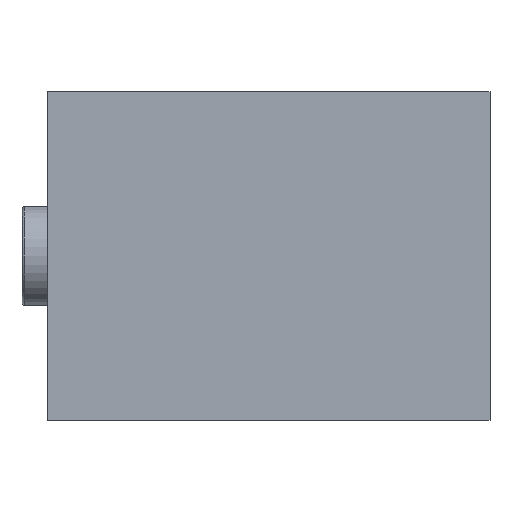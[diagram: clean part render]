
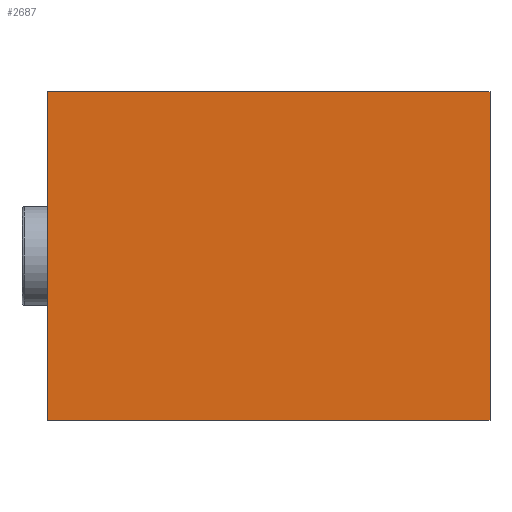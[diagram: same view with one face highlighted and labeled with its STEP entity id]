
A CAD part, front view. The second image highlights one B-rep face of the part: STEP entity #2687.
In plain terms, the highlighted planar face has unit normal (0, -1, 0).
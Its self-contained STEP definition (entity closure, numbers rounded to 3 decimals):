
#37 = VECTOR ( 'NONE', #2673, 1000. ) ;
#152 = FACE_OUTER_BOUND ( 'NONE', #1910, .T. ) ;
#227 = LINE ( 'NONE', #707, #37 ) ;
#247 = DIRECTION ( 'NONE',  ( 0., 1., 0. ) ) ;
#259 = LINE ( 'NONE', #878, #2384 ) ;
#270 = CARTESIAN_POINT ( 'NONE',  ( -42.5, 0., -31.5 ) ) ;
#314 = EDGE_CURVE ( 'NONE', #1415, #2624, #2765, .T. ) ;
#354 = CARTESIAN_POINT ( 'NONE',  ( -42.5, 0., 31.5 ) ) ;
#464 = ORIENTED_EDGE ( 'NONE', *, *, #1417, .F. ) ;
#707 = CARTESIAN_POINT ( 'NONE',  ( -42.5, 0., -31.5 ) ) ;
#878 = CARTESIAN_POINT ( 'NONE',  ( 42.5, 0., -31.5 ) ) ;
#1247 = VECTOR ( 'NONE', #2136, 1000. ) ;
#1368 = CARTESIAN_POINT ( 'NONE',  ( -42.5, 0., -31.5 ) ) ;
#1415 = VERTEX_POINT ( 'NONE', #2421 ) ;
#1417 = EDGE_CURVE ( 'NONE', #2624, #1715, #227, .T. ) ;
#1457 = CARTESIAN_POINT ( 'NONE',  ( 0., 0., 0. ) ) ;
#1470 = DIRECTION ( 'NONE',  ( 0., 0., 1. ) ) ;
#1488 = VERTEX_POINT ( 'NONE', #1967 ) ;
#1715 = VERTEX_POINT ( 'NONE', #354 ) ;
#1781 = AXIS2_PLACEMENT_3D ( 'NONE', #1457, #247, #1470 ) ;
#1910 = EDGE_LOOP ( 'NONE', ( #1916, #2404, #464, #2644 ) ) ;
#1916 = ORIENTED_EDGE ( 'NONE', *, *, #2861, .F. ) ;
#1967 = CARTESIAN_POINT ( 'NONE',  ( 42.5, 0., 31.5 ) ) ;
#1984 = EDGE_CURVE ( 'NONE', #1715, #1488, #2271, .T. ) ;
#2081 = DIRECTION ( 'NONE',  ( 0., 0., -1. ) ) ;
#2136 = DIRECTION ( 'NONE',  ( -1., 0., 0. ) ) ;
#2162 = CARTESIAN_POINT ( 'NONE',  ( -42.5, 0., 31.5 ) ) ;
#2271 = LINE ( 'NONE', #2162, #2728 ) ;
#2384 = VECTOR ( 'NONE', #2081, 1000. ) ;
#2404 = ORIENTED_EDGE ( 'NONE', *, *, #1984, .F. ) ;
#2421 = CARTESIAN_POINT ( 'NONE',  ( 42.5, 0., -31.5 ) ) ;
#2624 = VERTEX_POINT ( 'NONE', #270 ) ;
#2644 = ORIENTED_EDGE ( 'NONE', *, *, #314, .F. ) ;
#2673 = DIRECTION ( 'NONE',  ( 0., 0., 1. ) ) ;
#2687 = ADVANCED_FACE ( 'NONE', ( #152 ), #2927, .F. ) ;
#2728 = VECTOR ( 'NONE', #3137, 1000. ) ;
#2765 = LINE ( 'NONE', #1368, #1247 ) ;
#2861 = EDGE_CURVE ( 'NONE', #1488, #1415, #259, .T. ) ;
#2927 = PLANE ( 'NONE',  #1781 ) ;
#3137 = DIRECTION ( 'NONE',  ( 1., 0., 0. ) ) ;
